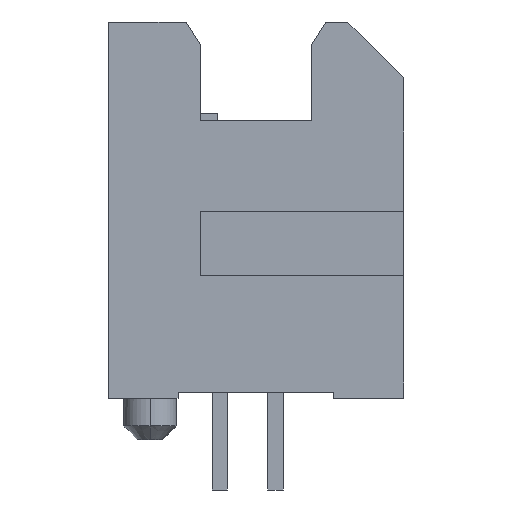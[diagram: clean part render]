
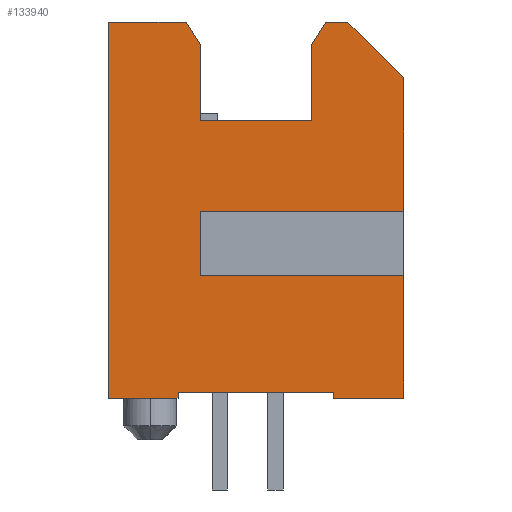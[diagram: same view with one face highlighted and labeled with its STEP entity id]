
A CAD part, left-side view. The second image highlights one B-rep face of the part: STEP entity #133940.
In plain terms, the highlighted planar face has unit normal (-1, 0, 0).
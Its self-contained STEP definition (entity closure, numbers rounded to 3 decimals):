
#2600=CARTESIAN_POINT('',(-16.,2.,10.));
#2610=VERTEX_POINT('',#2600);
#2640=CARTESIAN_POINT('',(-16.,0.,10.));
#2650=DIRECTION('',(0.,-1.,0.));
#2660=VECTOR('',#2650,1.);
#2670=LINE('',#2640,#2660);
#2680=CARTESIAN_POINT('',(-16.,2.8,10.));
#2690=VERTEX_POINT('',#2680);
#2700=EDGE_CURVE('',#2690,#2610,#2670,.T.);
#3420=CARTESIAN_POINT('',(-16.,8.1,0.));
#3430=DIRECTION('',(0.,0.,1.));
#3440=VECTOR('',#3430,1.);
#3450=LINE('',#3420,#3440);
#3460=CARTESIAN_POINT('',(-16.,8.1,-3.5));
#3470=VERTEX_POINT('',#3460);
#3480=CARTESIAN_POINT('',(-16.,8.1,-3.3));
#3490=VERTEX_POINT('',#3480);
#3500=EDGE_CURVE('',#3470,#3490,#3450,.T.);
#5170=CARTESIAN_POINT('',(-16.,7.3,9.2));
#5180=VERTEX_POINT('',#5170);
#5210=CARTESIAN_POINT('',(-16.,1.581,0.05));
#5220=DIRECTION('',(0.,0.53,0.848));
#5230=VECTOR('',#5220,1.);
#5240=LINE('',#5210,#5230);
#5250=CARTESIAN_POINT('',(-16.,7.8,10.));
#5260=VERTEX_POINT('',#5250);
#5270=EDGE_CURVE('',#5180,#5260,#5240,.T.);
#8530=CARTESIAN_POINT('',(-16.,10.6,-3.5));
#8540=VERTEX_POINT('',#8530);
#8570=CARTESIAN_POINT('',(-16.,10.6,-3.5));
#8580=DIRECTION('',(0.,-1.,0.));
#8590=VECTOR('',#8580,1.);
#8600=LINE('',#8570,#8590);
#8610=EDGE_CURVE('',#8540,#3470,#8600,.T.);
#10350=CARTESIAN_POINT('',(-16.,10.6,10.));
#10360=VERTEX_POINT('',#10350);
#10390=CARTESIAN_POINT('',(-16.,10.6,0.05));
#10400=DIRECTION('',(0.,0.,-1.));
#10410=VECTOR('',#10400,1.);
#10420=LINE('',#10390,#10410);
#10430=EDGE_CURVE('',#10360,#8540,#10420,.T.);
#14780=CARTESIAN_POINT('',(-16.,0.,8.));
#14790=VERTEX_POINT('',#14780);
#14820=CARTESIAN_POINT('',(-16.,-7.95,0.05));
#14830=DIRECTION('',(0.,-0.707,-0.707));
#14840=VECTOR('',#14830,1.);
#14850=LINE('',#14820,#14840);
#14860=EDGE_CURVE('',#2610,#14790,#14850,.T.);
#15020=CARTESIAN_POINT('',(-16.,3.3,6.45));
#15030=VERTEX_POINT('',#15020);
#15180=CARTESIAN_POINT('',(-16.,3.3,9.2));
#15190=VERTEX_POINT('',#15180);
#15220=CARTESIAN_POINT('',(-16.,3.3,6.7));
#15230=DIRECTION('',(0.,0.,1.));
#15240=VECTOR('',#15230,1.);
#15250=LINE('',#15220,#15240);
#15260=EDGE_CURVE('',#15030,#15190,#15250,.T.);
#16160=CARTESIAN_POINT('',(-16.,7.3,0.9));
#16170=VERTEX_POINT('',#16160);
#16200=CARTESIAN_POINT('',(-16.,7.3,0.));
#16210=DIRECTION('',(0.,0.,-1.));
#16220=VECTOR('',#16210,1.);
#16230=LINE('',#16200,#16220);
#16240=CARTESIAN_POINT('',(-16.,7.3,3.2));
#16250=VERTEX_POINT('',#16240);
#16260=EDGE_CURVE('',#16250,#16170,#16230,.T.);
#17530=CARTESIAN_POINT('',(-16.,0.,3.2));
#17540=DIRECTION('',(0.,1.,0.));
#17550=VECTOR('',#17540,1.);
#17560=LINE('',#17530,#17550);
#17570=CARTESIAN_POINT('',(-16.,0.,3.2));
#17580=VERTEX_POINT('',#17570);
#17590=EDGE_CURVE('',#17580,#16250,#17560,.T.);
#28020=CARTESIAN_POINT('',(-16.,0.,0.9));
#28030=VERTEX_POINT('',#28020);
#28060=CARTESIAN_POINT('',(-16.,0.,0.9));
#28070=DIRECTION('',(0.,-1.,0.));
#28080=VECTOR('',#28070,1.);
#28090=LINE('',#28060,#28080);
#28100=EDGE_CURVE('',#16170,#28030,#28090,.T.);
#28280=CARTESIAN_POINT('',(-16.,7.3,6.45));
#28290=VERTEX_POINT('',#28280);
#28390=CARTESIAN_POINT('',(-16.,0.,6.45));
#28400=DIRECTION('',(0.,1.,0.));
#28410=VECTOR('',#28400,1.);
#28420=LINE('',#28390,#28410);
#28430=EDGE_CURVE('',#15030,#28290,#28420,.T.);
#34430=CARTESIAN_POINT('',(-16.,0.,-3.5));
#34440=VERTEX_POINT('',#34430);
#34650=CARTESIAN_POINT('',(-16.,2.5,-3.5));
#34660=VERTEX_POINT('',#34650);
#34690=EDGE_CURVE('',#34660,#34440,#8600,.T.);
#81660=CARTESIAN_POINT('',(-16.,2.5,-3.3));
#81670=VERTEX_POINT('',#81660);
#81700=CARTESIAN_POINT('',(-16.,2.5,0.));
#81710=DIRECTION('',(0.,0.,-1.));
#81720=VECTOR('',#81710,1.);
#81730=LINE('',#81700,#81720);
#81740=EDGE_CURVE('',#81670,#34660,#81730,.T.);
#103200=CARTESIAN_POINT('',(-16.,0.,-3.3));
#103210=DIRECTION('',(0.,-1.,0.));
#103220=VECTOR('',#103210,1.);
#103230=LINE('',#103200,#103220);
#103240=EDGE_CURVE('',#3490,#81670,#103230,.T.);
#133320=CARTESIAN_POINT('',(-16.,7.3,0.05));
#133330=DIRECTION('',(0.,0.,-1.));
#133340=VECTOR('',#133330,1.);
#133350=LINE('',#133320,#133340);
#133360=EDGE_CURVE('',#5180,#28290,#133350,.T.);
#133480=CARTESIAN_POINT('',(-16.,10.6,0.05));
#133490=DIRECTION('',(1.,0.,0.));
#133500=DIRECTION('',(0.,-1.,0.));
#133510=AXIS2_PLACEMENT_3D('',#133480,#133490,#133500);
#133520=PLANE('',#133510);
#133530=ORIENTED_EDGE('',*,*,#28430,.T.);
#133540=ORIENTED_EDGE('',*,*,#15260,.F.);
#133550=CARTESIAN_POINT('',(-16.,9.019,0.05));
#133560=DIRECTION('',(0.,-0.53,0.848));
#133570=VECTOR('',#133560,1.);
#133580=LINE('',#133550,#133570);
#133590=EDGE_CURVE('',#15190,#2690,#133580,.T.);
#133600=ORIENTED_EDGE('',*,*,#133590,.F.);
#133610=ORIENTED_EDGE('',*,*,#2700,.F.);
#133620=ORIENTED_EDGE('',*,*,#14860,.F.);
#133630=CARTESIAN_POINT('',(-16.,0.,0.05));
#133640=DIRECTION('',(0.,0.,1.));
#133650=VECTOR('',#133640,1.);
#133660=LINE('',#133630,#133650);
#133670=EDGE_CURVE('',#17580,#14790,#133660,.T.);
#133680=ORIENTED_EDGE('',*,*,#133670,.T.);
#133690=ORIENTED_EDGE('',*,*,#17590,.F.);
#133700=ORIENTED_EDGE('',*,*,#16260,.F.);
#133710=ORIENTED_EDGE('',*,*,#28100,.F.);
#133720=CARTESIAN_POINT('',(-16.,0.,0.));
#133730=DIRECTION('',(0.,0.,1.));
#133740=VECTOR('',#133730,1.);
#133750=LINE('',#133720,#133740);
#133760=EDGE_CURVE('',#34440,#28030,#133750,.T.);
#133770=ORIENTED_EDGE('',*,*,#133760,.T.);
#133780=ORIENTED_EDGE('',*,*,#34690,.T.);
#133790=ORIENTED_EDGE('',*,*,#81740,.T.);
#133800=ORIENTED_EDGE('',*,*,#103240,.T.);
#133810=ORIENTED_EDGE('',*,*,#3500,.T.);
#133820=ORIENTED_EDGE('',*,*,#8610,.T.);
#133830=ORIENTED_EDGE('',*,*,#10430,.T.);
#133840=CARTESIAN_POINT('',(-16.,0.,10.));
#133850=DIRECTION('',(0.,-1.,0.));
#133860=VECTOR('',#133850,1.);
#133870=LINE('',#133840,#133860);
#133880=EDGE_CURVE('',#10360,#5260,#133870,.T.);
#133890=ORIENTED_EDGE('',*,*,#133880,.F.);
#133900=ORIENTED_EDGE('',*,*,#5270,.T.);
#133910=ORIENTED_EDGE('',*,*,#133360,.F.);
#133920=EDGE_LOOP('',(#133910,#133900,#133890,#133830,#133820,#133810,
#133800,#133790,#133780,#133770,#133710,#133700,#133690,#133680,#133620,
#133610,#133600,#133540,#133530));
#133930=FACE_OUTER_BOUND('',#133920,.T.);
#133940=ADVANCED_FACE('',(#133930),#133520,.F.);
